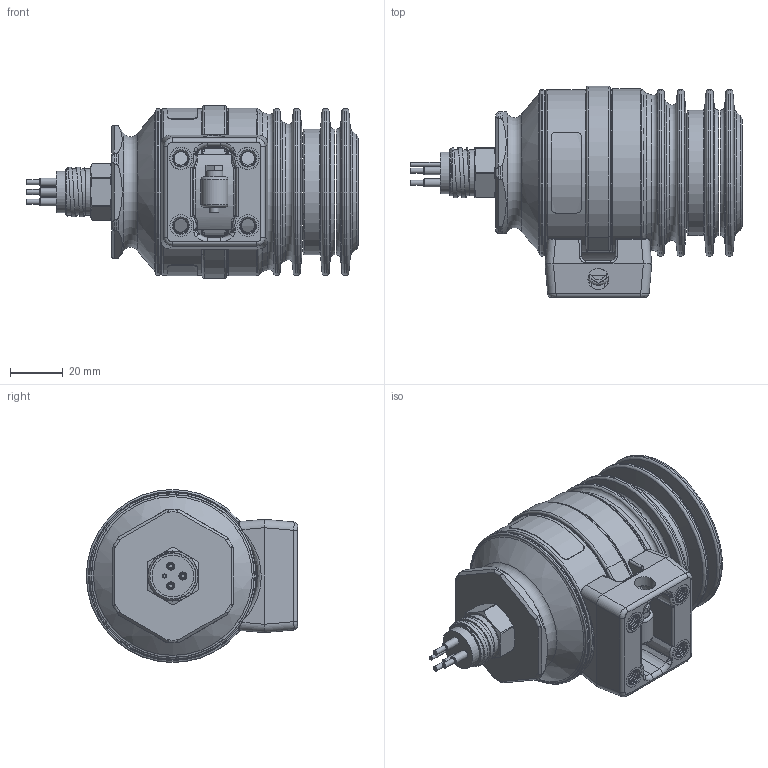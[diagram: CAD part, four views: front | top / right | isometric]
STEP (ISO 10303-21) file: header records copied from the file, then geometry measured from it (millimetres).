
FILE_DESCRIPTION (( 'STEP AP214' ), '1' );
FILE_NAME ('LSL-FLD-ALTI-S-B-SB-MCBH3-0B_20171201a.STEP', '2017-12-01T15:46:47', ( '' ), ( '' ), 'SwSTEP 2.0', 'SolidWorks 2017', '' );
FILE_SCHEMA (( 'AUTOMOTIVE_DESIGN' ));
Length unit declared in the file: millimetre
Products named in the file (1): LSL-FLD-ALTI-S-B-SB-MCBH3-0B_20171201a
Bounding box: 125.66 x 80 x 65.49 mm (x, y, z)
Surface area: 44329.5 mm2 (no closed solid volume)
Topology: 0 solids, 19 shells, 406 faces, 1112 edges, 714 vertices
Faces by surface type: cylinder 144, plane 84, torus 67, bspline 65, cone 41, sphere 5
Full cylindrical faces by diameter (mm): 1.524 x1, 1.943 x3, 3.048 x3, 3.454 x1, 5.105 x52, 6.35 x1, 7.938 x1, 15.748 x1, 17.475 x1, 38.5 x1, 47.5 x1, 62.23 x1, 62.992 x7
Entity records: 28683 total; most frequent: CARTESIAN_POINT 17170, DIRECTION 1473, ORIENTED_EDGE 1433, EDGE_CURVE 853, AXIS2_PLACEMENT_3D 629, VERTEX_POINT 604, EDGE_LOOP 469, FACE_OUTER_BOUND 415
